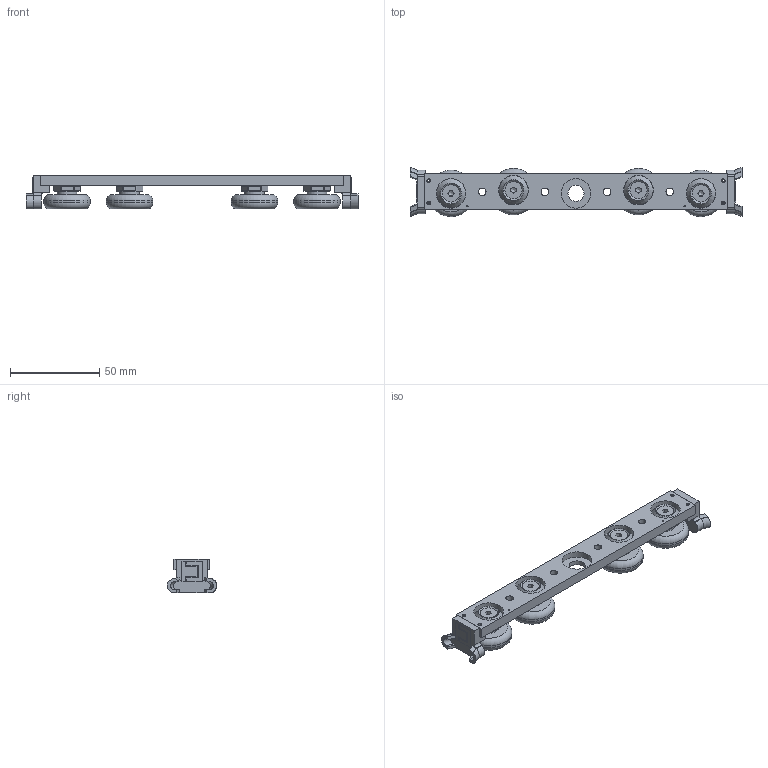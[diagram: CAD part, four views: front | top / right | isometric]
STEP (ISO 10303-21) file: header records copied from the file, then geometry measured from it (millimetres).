
FILE_DESCRIPTION (( 'STEP AP214' ), '1' );
FILE_NAME ('RLS33-4-A.STEP', '2022-02-01T10:20:50', ( '' ), ( '' ), 'SwSTEP 2.0', 'SolidWorks 2019', '' );
FILE_SCHEMA (( 'AUTOMOTIVE_DESIGN' ));
Length unit declared in the file: millimetre
Products named in the file (8): DIN 7991 - M5 x 12 (schwarz01)_DIN 7991 - M5 x 12 --- 12C_phosphatiert; RLS33-4-A; 39042; 32426; 11682_01; 11686_01; 38617; 32425
Assembly tree (19 placements, depth 2):
  RLS33-4-A
    11682_01
    32425  x2
    32426  x2
    11686_01  x4
    DIN 7991 - M5 x 12 (schwarz01)_DIN 7991 - M5 x 12 --- 12C_phosphatiert  x4
    39042  x4
    38617  x2
Bounding box: 186 x 27.62 x 19 mm (x, y, z)
Volume: 39872.3 mm3; surface area: 24792.5 mm2
Topology: 19 solids, 19 shells, 483 faces, 1062 edges, 634 vertices
Faces by surface type: plane 347, cylinder 78, cone 34, torus 12, bspline 12
Full cylindrical faces by diameter (mm): 1 x2, 2 x4, 4.2 x8, 5 x4, 9 x9, 9.64 x4, 11 x4, 16 x4, 16.6 x5, 26 x4
Entity records: 6456 total; most frequent: CARTESIAN_POINT 1058, DIRECTION 1043, ORIENTED_EDGE 902, EDGE_CURVE 451, AXIS2_PLACEMENT_3D 356, VECTOR 331, LINE 331, EDGE_LOOP 316
